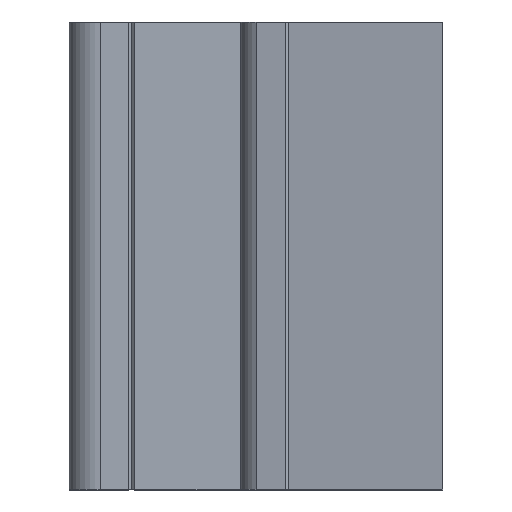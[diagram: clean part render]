
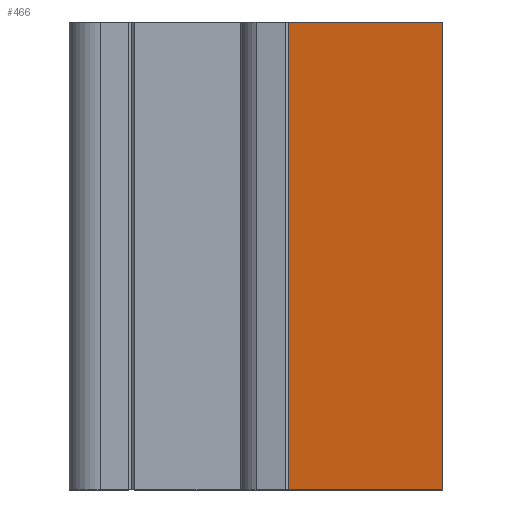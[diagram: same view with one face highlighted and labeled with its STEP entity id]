
A CAD part, top view. The second image highlights one B-rep face of the part: STEP entity #466.
In plain terms, the highlighted planar face has unit normal (0.866, 0, 0.5).
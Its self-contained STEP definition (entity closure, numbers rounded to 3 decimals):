
#26=ORIENTED_EDGE('',*,*,#158,.T.);
#27=ORIENTED_EDGE('',*,*,#159,.F.);
#28=ORIENTED_EDGE('',*,*,#160,.F.);
#29=ORIENTED_EDGE('',*,*,#161,.T.);
#158=EDGE_CURVE('',#224,#225,#268,.T.);
#159=EDGE_CURVE('',#226,#225,#269,.T.);
#160=EDGE_CURVE('',#227,#226,#270,.T.);
#161=EDGE_CURVE('',#227,#224,#271,.T.);
#224=VERTEX_POINT('',#654);
#225=VERTEX_POINT('',#655);
#226=VERTEX_POINT('',#657);
#227=VERTEX_POINT('',#659);
#268=LINE('',#653,#330);
#269=LINE('',#656,#331);
#270=LINE('',#658,#332);
#271=LINE('',#660,#333);
#330=VECTOR('',#535,1000.);
#331=VECTOR('',#536,1000.);
#332=VECTOR('',#537,1000.);
#333=VECTOR('',#538,1000.);
#392=EDGE_LOOP('',(#26,#27,#28,#29));
#418=FACE_BOUND('',#392,.T.);
#444=PLANE('',#503);
#466=ADVANCED_FACE('',(#418),#444,.F.);
#503=AXIS2_PLACEMENT_3D('',#652,#533,#534);
#533=DIRECTION('',(-0.866,0.,-0.5));
#534=DIRECTION('',(-0.5,0.,0.866));
#535=DIRECTION('',(-0.5,0.,0.866));
#536=DIRECTION('',(0.,1.,0.));
#537=DIRECTION('',(-0.5,0.,0.866));
#538=DIRECTION('',(0.,1.,0.));
#652=CARTESIAN_POINT('',(0.,-37.5,0.));
#653=CARTESIAN_POINT('',(0.,37.5,0.));
#654=CARTESIAN_POINT('',(0.,37.5,0.));
#655=CARTESIAN_POINT('',(-24.75,37.5,42.868));
#656=CARTESIAN_POINT('',(-24.75,-37.5,42.868));
#657=CARTESIAN_POINT('',(-24.75,-37.5,42.868));
#658=CARTESIAN_POINT('',(0.,-37.5,0.));
#659=CARTESIAN_POINT('',(0.,-37.5,0.));
#660=CARTESIAN_POINT('',(0.,-37.5,0.));
